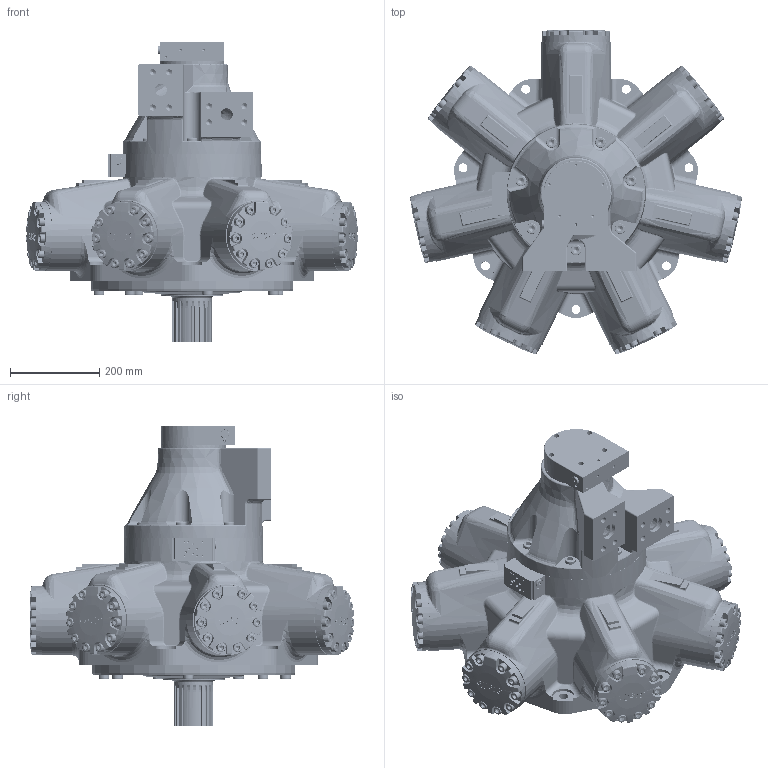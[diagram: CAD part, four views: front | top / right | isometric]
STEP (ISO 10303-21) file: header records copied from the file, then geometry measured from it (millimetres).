
FILE_DESCRIPTION((''),'2;1');
FILE_NAME('I:\3D Step files\Staffa\HMC325 S FM4 CS 71.stp','2009-06-30T09:28:36',('mnorman'),(''),'Autodesk Inventor 2010','Autodesk Inventor 2010','');
FILE_SCHEMA(('AUTOMOTIVE_DESIGN { 1 0 10303 214 1 1 1 1 }'));
Length unit declared in the file: millimetre
Products named in the file (1): Part4
Bounding box: 746.03 x 729.78 x 675.97 mm (x, y, z)
Volume: 50448096.4 mm3; surface area: 3615514.1 mm2
Topology: 98 solids, 98 shells, 5262 faces, 12381 edges, 7733 vertices
Faces by surface type: bspline 1966, plane 1806, cylinder 989, cone 297, torus 200, sphere 4
Full cylindrical faces by diameter (mm): 12.7 x70, 13.5 x35, 15.875 x14, 16.669 x7, 19 x2, 19.05 x70, 20 x7, 20.6 x35, 20.625 x1, 22.225 x7, 23.825 x14, 25 x22, 25.4 x7, 27.661 x7, 28.575 x7, 28.677 x7, 38.1 x2, 38.176 x14, 64.643 x1, 65.1 x1, 79.248 x1, 87.889 x1, 92.15 x8, 101.285 x2, 101.485 x14, 101.575 x8, 101.605 x1, 101.651 x2, 105.664 x1, 127 x1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
Entity records: 198036 total; most frequent: CARTESIAN_POINT 91809, ORIENTED_EDGE 21484, DIRECTION 17176, EDGE_CURVE 10742, VERTEX_POINT 7307, EDGE_LOOP 6985, AXIS2_PLACEMENT_3D 6584, FACE_OUTER_BOUND 5262
